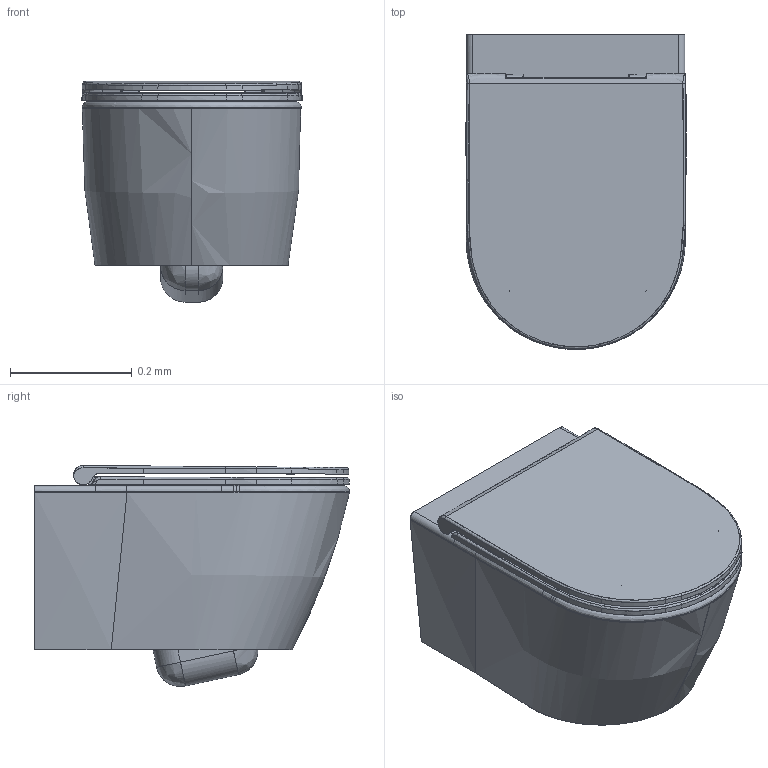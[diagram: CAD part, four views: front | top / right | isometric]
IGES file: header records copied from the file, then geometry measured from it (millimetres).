
Global section: file name: /Volumes/Documenti/lavoro/DATI_archivio 1/SITO ALTHEA CERAMICA/2022/SCHEDE PRODOTTO/COVER RIMLESS PLUSTON/WC_sospeso_COVER RIMLESS_pluston.igs; preprocessor: Trout Lake IGES 012 Jun 21 2016; date: 220428.081154; units: micron
Bounding box: 0.36 x 0.52 x 0.36 mm (x, y, z)
Surface area: 1.3 mm2 (no closed solid volume)
Topology: 0 solids, 0 shells, 479 faces, 4463 edges, 4444 vertices
Faces by surface type: bspline 479
